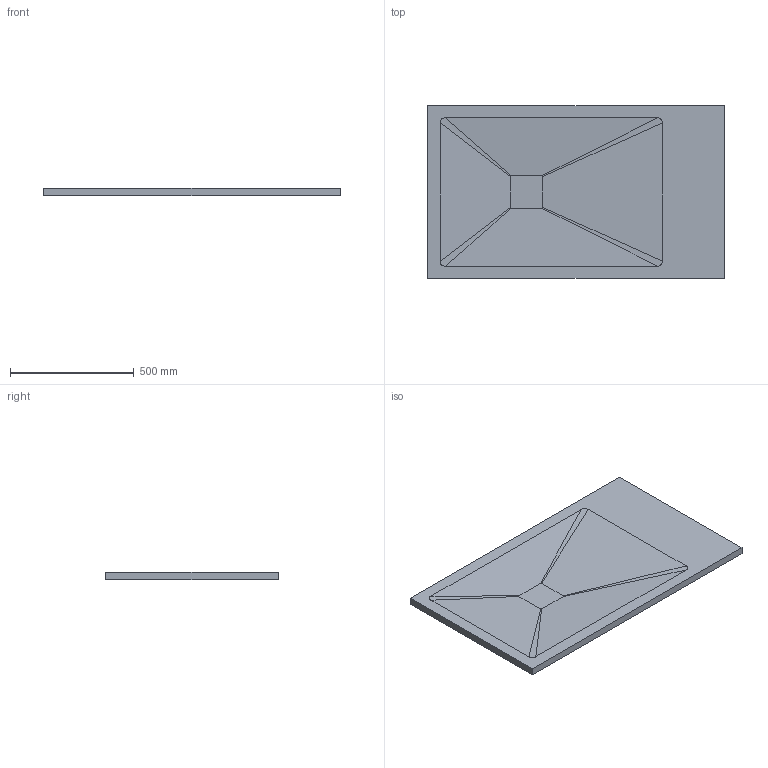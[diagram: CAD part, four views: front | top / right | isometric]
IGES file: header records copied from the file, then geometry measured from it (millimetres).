
Global section: file name: C:\Users\Utente; native system: Rhinoceros ( Aug 11 2021 ); preprocessor: Trout Lake IGES 012 Aug 11 2021; date: 220621.061256; units: millimetre
Bounding box: 1200 x 700 x 30 mm (x, y, z)
Surface area: 1937080.6 mm2 (no closed solid volume)
Topology: 0 solids, 0 shells, 518 faces, 3070 edges, 2998 vertices
Faces by surface type: bspline 518
